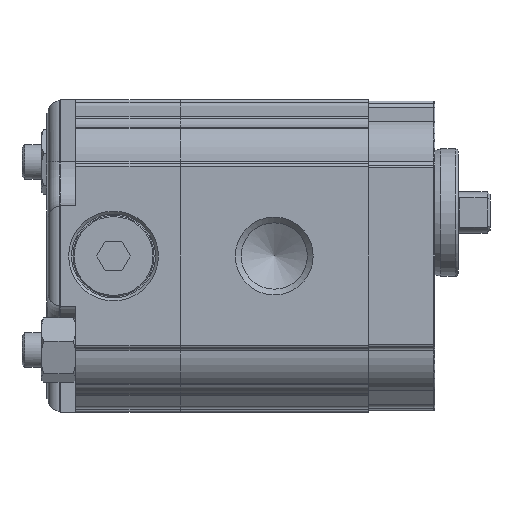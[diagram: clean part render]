
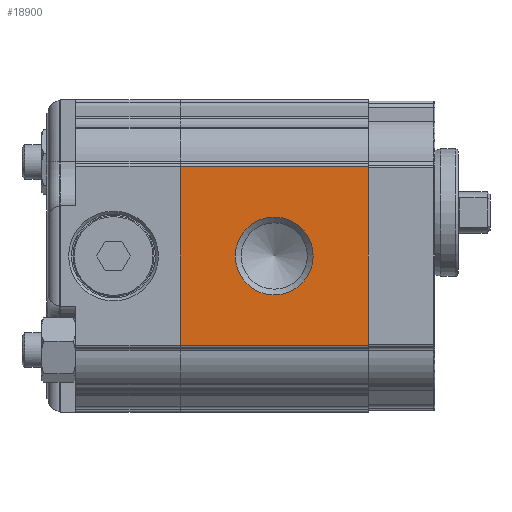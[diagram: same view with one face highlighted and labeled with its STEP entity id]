
A CAD part, left-side view. The second image highlights one B-rep face of the part: STEP entity #18900.
In plain terms, the highlighted planar face has unit normal (-1, 0, 0).
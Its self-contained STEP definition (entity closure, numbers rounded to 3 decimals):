
#1234=LINE('',#27752,#2253);
#1235=LINE('',#27756,#2254);
#1236=LINE('',#27758,#2255);
#1237=LINE('',#27760,#2256);
#2253=VECTOR('',#23065,1000.);
#2254=VECTOR('',#23070,1000.);
#2255=VECTOR('',#23071,1000.);
#2256=VECTOR('',#23072,1000.);
#4794=ORIENTED_EDGE('',*,*,#7641,.T.);
#4795=ORIENTED_EDGE('',*,*,#7642,.F.);
#4796=ORIENTED_EDGE('',*,*,#7640,.F.);
#4797=ORIENTED_EDGE('',*,*,#7643,.T.);
#4798=ORIENTED_EDGE('',*,*,#7644,.T.);
#7640=EDGE_CURVE('',#9209,#9208,#1234,.T.);
#7641=EDGE_CURVE('',#9210,#9210,#10214,.F.);
#7642=EDGE_CURVE('',#9208,#9211,#1235,.T.);
#7643=EDGE_CURVE('',#9209,#9212,#1236,.T.);
#7644=EDGE_CURVE('',#9212,#9211,#1237,.T.);
#9208=VERTEX_POINT('',#27749);
#9209=VERTEX_POINT('',#27751);
#9210=VERTEX_POINT('',#27755);
#9211=VERTEX_POINT('',#27757);
#9212=VERTEX_POINT('',#27759);
#10214=CIRCLE('',#20141,6.723);
#11048=EDGE_LOOP('',(#4794));
#11049=EDGE_LOOP('',(#4795,#4796,#4797,#4798));
#12046=FACE_BOUND('',#11048,.T.);
#12047=FACE_BOUND('',#11049,.T.);
#12716=PLANE('',#20140);
#18900=ADVANCED_FACE('',(#12046,#12047),#12716,.T.);
#20140=AXIS2_PLACEMENT_3D('',#27753,#23066,#23067);
#20141=AXIS2_PLACEMENT_3D('',#27754,#23068,#23069);
#23065=DIRECTION('',(0.,-1.,0.));
#23066=DIRECTION('',(-1.,0.,0.));
#23067=DIRECTION('',(0.,0.,1.));
#23068=DIRECTION('',(-1.,0.,0.));
#23069=DIRECTION('',(0.,0.,1.));
#23070=DIRECTION('',(0.,0.,-1.));
#23071=DIRECTION('',(0.,0.,-1.));
#23072=DIRECTION('',(0.,-1.,0.));
#27749=CARTESIAN_POINT('',(-25.,0.,15.418));
#27751=CARTESIAN_POINT('',(-25.,32.5,15.418));
#27752=CARTESIAN_POINT('',(-25.,32.5,15.418));
#27753=CARTESIAN_POINT('',(-25.,32.5,15.418));
#27754=CARTESIAN_POINT('',(-25.,16.25,0.));
#27755=CARTESIAN_POINT('',(-25.,16.25,6.723));
#27756=CARTESIAN_POINT('',(-25.,0.,15.418));
#27757=CARTESIAN_POINT('',(-25.,0.,-15.418));
#27758=CARTESIAN_POINT('',(-25.,32.5,15.418));
#27759=CARTESIAN_POINT('',(-25.,32.5,-15.418));
#27760=CARTESIAN_POINT('',(-25.,32.5,-15.418));
